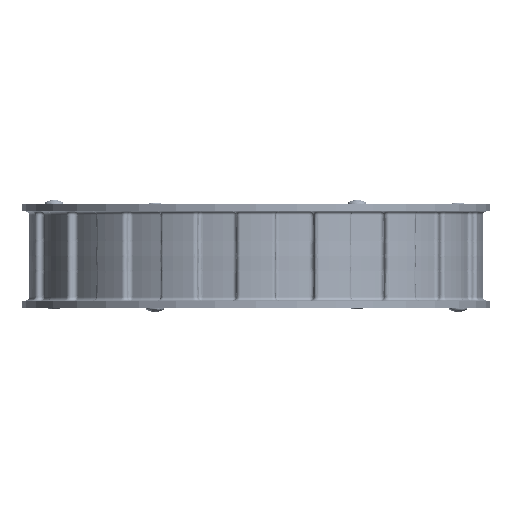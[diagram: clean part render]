
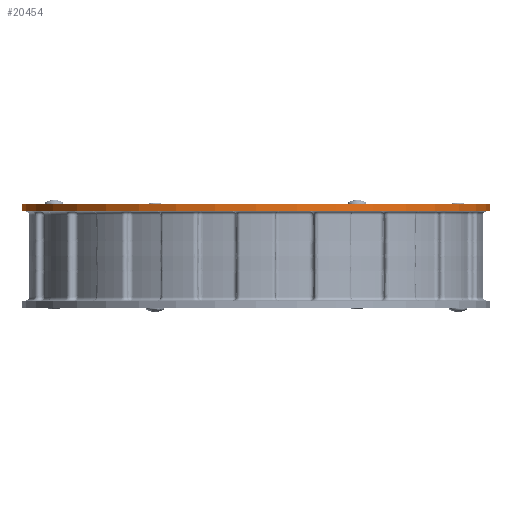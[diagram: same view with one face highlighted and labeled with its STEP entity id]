
A CAD part, front view. The second image highlights one B-rep face of the part: STEP entity #20454.
In plain terms, the highlighted cylindrical face has radius 100.013 mm (diameter 200.025 mm), a partial arc.
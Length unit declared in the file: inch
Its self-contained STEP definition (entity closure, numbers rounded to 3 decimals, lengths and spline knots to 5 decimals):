
#4381 = EDGE_CURVE ( 'NONE', #69998, #69988, #71638, .T. ) ;
#4383 = EDGE_CURVE ( 'NONE', #69997, #69990, #71651, .T. ) ;
#4597 = EDGE_CURVE ( 'NONE', #69997, #69998, #72136, .T. ) ;
#7037 = EDGE_CURVE ( 'NONE', #69988, #69990, #9647, .T. ) ;
#9647 = CIRCLE ( 'NONE', #43341, 3.9375 ) ;
#11234 = AXIS2_PLACEMENT_3D ( 'NONE', #58101, #58103, #58105 ) ;
#20013 = EDGE_LOOP ( 'NONE', ( #29581, #29583, #29584, #29586 ) ) ;
#20454 = ADVANCED_FACE ( 'NONE', ( #52687 ), #52698, .T. ) ;
#24893 = CARTESIAN_POINT ( 'NONE',  ( 0., 0., -0.5 ) ) ;
#24894 = DIRECTION ( 'NONE',  ( 0., 0., 1. ) ) ;
#24895 = DIRECTION ( 'NONE',  ( -1., 0., 0. ) ) ;
#29581 = ORIENTED_EDGE ( 'NONE', *, *, #4381, .F. ) ;
#29583 = ORIENTED_EDGE ( 'NONE', *, *, #4597, .F. ) ;
#29584 = ORIENTED_EDGE ( 'NONE', *, *, #4383, .T. ) ;
#29586 = ORIENTED_EDGE ( 'NONE', *, *, #7037, .F. ) ;
#32137 = DIRECTION ( 'NONE',  ( 1., 0., 0. ) ) ;
#32147 = DIRECTION ( 'NONE',  ( 0., 0., 1. ) ) ;
#32150 = CARTESIAN_POINT ( 'NONE',  ( 0., 0., -0.4375 ) ) ;
#36264 = CARTESIAN_POINT ( 'NONE',  ( -3.9375, 0., -0.5 ) ) ;
#36266 = CARTESIAN_POINT ( 'NONE',  ( 3.9375, 0., -0.5 ) ) ;
#36273 = CARTESIAN_POINT ( 'NONE',  ( 3.9375, 0., -0.625 ) ) ;
#36274 = CARTESIAN_POINT ( 'NONE',  ( -3.9375, 0., -0.625 ) ) ;
#43341 = AXIS2_PLACEMENT_3D ( 'NONE', #24893, #24894, #24895 ) ;
#44094 = AXIS2_PLACEMENT_3D ( 'NONE', #32150, #32147, #32137 ) ;
#52687 = FACE_OUTER_BOUND ( 'NONE', #20013, .T. ) ;
#52698 = CYLINDRICAL_SURFACE ( 'NONE', #44094, 3.9375 ) ;
#58101 = CARTESIAN_POINT ( 'NONE',  ( 0., 0., -0.625 ) ) ;
#58103 = DIRECTION ( 'NONE',  ( 0., 0., -1. ) ) ;
#58105 = DIRECTION ( 'NONE',  ( -1., 0., 0. ) ) ;
#67807 = DIRECTION ( 'NONE',  ( 0., 0., 1. ) ) ;
#67811 = CARTESIAN_POINT ( 'NONE',  ( -3.9375, 0., -0.4375 ) ) ;
#67815 = DIRECTION ( 'NONE',  ( 0., 0., 1. ) ) ;
#67817 = CARTESIAN_POINT ( 'NONE',  ( 3.9375, 0., -0.4375 ) ) ;
#69988 = VERTEX_POINT ( 'NONE', #36264 ) ;
#69990 = VERTEX_POINT ( 'NONE', #36266 ) ;
#69997 = VERTEX_POINT ( 'NONE', #36273 ) ;
#69998 = VERTEX_POINT ( 'NONE', #36274 ) ;
#71638 = LINE ( 'NONE', #67811, #71653 ) ;
#71651 = LINE ( 'NONE', #67817, #71659 ) ;
#71653 = VECTOR ( 'NONE', #67807, 39.37008 ) ;
#71659 = VECTOR ( 'NONE', #67815, 39.37008 ) ;
#72136 = CIRCLE ( 'NONE', #11234, 3.9375 ) ;
